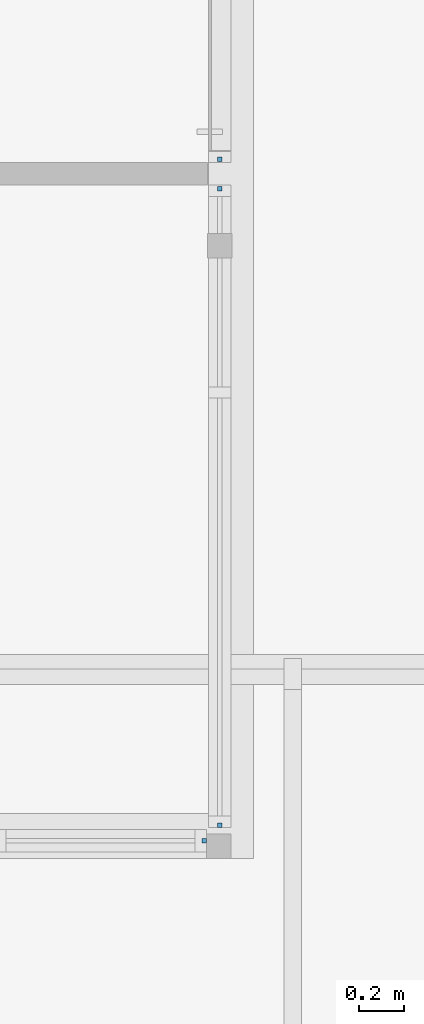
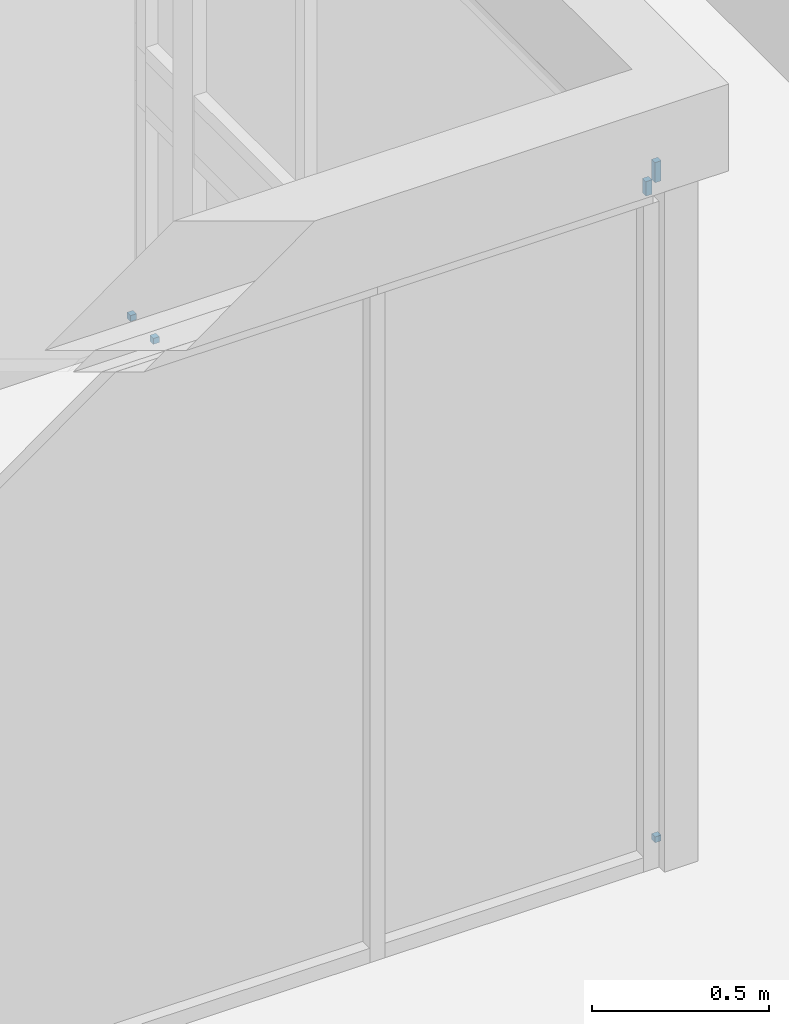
# One storey, part 115 of 153: 5 plates, 3 elements without a shape of their own.
"""IFC4 building model written with IfcOpenShell, lengths in metres."""

from ifc_helpers import new_model, entity, si_unit, converted_unit, derived_unit, direction, frame, origin, place, context, subcontext, project, spatial, indexed_curve, outline, extrude, source, transform, mapped, material, type_object, type_shapes, element, aggregate, save


model = new_model("IFC4")

# Units and contexts
model_context = context("Model", 3, precision=1e-05, world=origin(), true_north=direction((6.123031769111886e-17, 1.0)))
body_context = subcontext(model_context, "Body", "Model", "MODEL_VIEW")
ifc_project = project(units=[si_unit("LENGTHUNIT", "METRE"), si_unit("AREAUNIT", "SQUARE_METRE"), si_unit("VOLUMEUNIT", "CUBIC_METRE"), converted_unit("PLANEANGLEUNIT", "DEGREE", entity("IfcRatioMeasure", 0.017453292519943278), si_unit("PLANEANGLEUNIT", "RADIAN"), dimensions=[0, 0, 0, 0, 0, 0, 0]), si_unit("MASSUNIT", "GRAM", prefix="KILO"), derived_unit("MASSDENSITYUNIT", [(si_unit("MASSUNIT", "GRAM", prefix="KILO"), 1), (si_unit("LENGTHUNIT", "METRE"), -3)]), derived_unit("MOMENTOFINERTIAUNIT", [(si_unit("LENGTHUNIT", "METRE"), 4)]), si_unit("TIMEUNIT", "SECOND"), si_unit("FREQUENCYUNIT", "HERTZ"), si_unit("THERMODYNAMICTEMPERATUREUNIT", "DEGREE_CELSIUS"), derived_unit("THERMALTRANSMITTANCEUNIT", [(si_unit("MASSUNIT", "GRAM", prefix="KILO"), 1), (si_unit("THERMODYNAMICTEMPERATUREUNIT", "KELVIN"), -1), (si_unit("TIMEUNIT", "SECOND"), -3)]), derived_unit("VOLUMETRICFLOWRATEUNIT", [(si_unit("LENGTHUNIT", "METRE"), 3), (si_unit("TIMEUNIT", "SECOND"), -1)]), derived_unit("MASSFLOWRATEUNIT", [(si_unit("MASSUNIT", "GRAM", prefix="KILO"), 1), (si_unit("TIMEUNIT", "SECOND"), -1)]), derived_unit("ROTATIONALFREQUENCYUNIT", [(si_unit("TIMEUNIT", "SECOND"), -1)]), si_unit("ELECTRICCURRENTUNIT", "AMPERE"), si_unit("ELECTRICVOLTAGEUNIT", "VOLT"), si_unit("POWERUNIT", "WATT"), si_unit("FORCEUNIT", "NEWTON", prefix="KILO"), si_unit("ILLUMINANCEUNIT", "LUX"), si_unit("LUMINOUSFLUXUNIT", "LUMEN"), si_unit("LUMINOUSINTENSITYUNIT", "CANDELA"), derived_unit("USERDEFINED", [(si_unit("MASSUNIT", "GRAM", prefix="KILO"), -1), (si_unit("LENGTHUNIT", "METRE"), -2), (si_unit("TIMEUNIT", "SECOND"), 3), (si_unit("LUMINOUSFLUXUNIT", "LUMEN"), 1)]), derived_unit("SOUNDPOWERUNIT", [(si_unit("MASSUNIT", "GRAM", prefix="KILO"), 1), (si_unit("LENGTHUNIT", "METRE"), 2), (si_unit("TIMEUNIT", "SECOND"), -3)]), derived_unit("SOUNDPRESSUREUNIT", [(si_unit("MASSUNIT", "GRAM", prefix="KILO"), 1), (si_unit("LENGTHUNIT", "METRE"), -1), (si_unit("TIMEUNIT", "SECOND"), -2)]), derived_unit("LINEARVELOCITYUNIT", [(si_unit("LENGTHUNIT", "METRE"), 1), (si_unit("TIMEUNIT", "SECOND"), -1)]), si_unit("PRESSUREUNIT", "PASCAL"), derived_unit("USERDEFINED", [(si_unit("LENGTHUNIT", "METRE"), -2), (si_unit("MASSUNIT", "GRAM", prefix="KILO"), 1), (si_unit("TIMEUNIT", "SECOND"), -2)]), derived_unit("LINEARFORCEUNIT", [(si_unit("MASSUNIT", "GRAM", prefix="KILO"), 1), (si_unit("LENGTHUNIT", "METRE"), 1), (si_unit("TIMEUNIT", "SECOND"), -2), (si_unit("LENGTHUNIT", "METRE"), -1)]), derived_unit("PLANARFORCEUNIT", [(si_unit("MASSUNIT", "GRAM", prefix="KILO"), 1), (si_unit("LENGTHUNIT", "METRE"), 1), (si_unit("TIMEUNIT", "SECOND"), -2), (si_unit("LENGTHUNIT", "METRE"), -2)])], contexts=[model_context])

# Site, building, storey
site_placement = place(None, origin())
site = spatial("IfcSite", under=ifc_project, at=site_placement, Name="Superficie", CompositionType="ELEMENT")
building_placement = place(site_placement, origin())
building = spatial("IfcBuilding", under=site, at=building_placement, CompositionType="ELEMENT")
storey_placement = place(building_placement, frame((0.0, 0.0, 3.5999999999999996)))
storey = spatial("IfcBuildingStorey", under=building, at=storey_placement, Name="Nivel 1", CompositionType="ELEMENT", Elevation=3.5999999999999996)

# Curtain wall, plates
curtain_wall_type = type_object("IfcCurtainWallType", Name="Muro cortina:Muro cortina - simple", PredefinedType="NOTDEFINED")
curtain_wall_1_placement = place(storey_placement, frame((0.0, 0.0, -3.5999999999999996)))
curtain_wall_1 = element("IfcCurtainWall", 1, at=curtain_wall_1_placement, inside=storey, type_object=curtain_wall_type, Name="Muro cortina:Muro cortina - simple", ObjectType="Muro cortina:Muro cortina - simple", PredefinedType="NOTDEFINED")
ifc_material = material(Name="Cristal", Category="Vidrio")
plate_type_1 = type_object("IfcPlateType", Name="Panel de sistema:Acristalado", PredefinedType="CURTAIN_PANEL", material=ifc_material)
shared_shape_1 = source(origin(), body_context, "Body", "SweptSolid", [
    extrude(outline(indexed_curve([(-0.01, -0.009999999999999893), (0.01, -0.009999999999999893), (0.01, 0.009999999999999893), (-0.01, 0.009999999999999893), (-0.01, -0.009999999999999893)], self_intersect=False)), frame((0.0, 0.0, 0.0), z_axis=(0.0, 0.0, 1.0), x_axis=(0.0, 1.0, 0.0)), (0.0, 0.0, 1.0), 0.02000000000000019),
])
type_shapes(plate_type_1, [shared_shape_1])
plate_1_placement = place(curtain_wall_1_placement, frame((10.596799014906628, -0.882916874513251, 3.5999999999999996), z_axis=(0.0, 0.0, 1.0), x_axis=(0.0, 1.0, 0.0)))
plate_1 = element("IfcPlate", 2, at=plate_1_placement, type_object=plate_type_1, material=ifc_material, Name="Panel de sistema:Acristalado", ObjectType="Panel de sistema:Acristalado", PredefinedType="CURTAIN_PANEL", context=body_context, shape_type="MappedRepresentation", body=[
    mapped(shared_shape_1, transform((0.0, 0.0, 0.0), scale=1.0)),
])
plate_2_placement = place(curtain_wall_1_placement, frame((10.596799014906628, 1.9570831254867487, 3.5999999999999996), z_axis=(0.0, 0.0, 1.0), x_axis=(0.0, 1.0, 0.0)))
plate_2 = element("IfcPlate", 3, at=plate_2_placement, type_object=plate_type_1, material=ifc_material, Name="Panel de sistema:Acristalado", ObjectType="Panel de sistema:Acristalado", PredefinedType="CURTAIN_PANEL", context=body_context, shape_type="MappedRepresentation", body=[
    mapped(shared_shape_1, transform((0.0, 0.0, 0.0), scale=1.0)),
])

# Curtain wall, plate
curtain_wall_2_placement = place(storey_placement, frame((0.0, 0.0, -3.5999999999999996)))
curtain_wall_2 = element("IfcCurtainWall", 4, at=curtain_wall_2_placement, inside=storey, type_object=curtain_wall_type, Name="Muro cortina:Muro cortina - simple", ObjectType="Muro cortina:Muro cortina - simple", PredefinedType="NOTDEFINED")
plate_3_placement = place(curtain_wall_2_placement, frame((10.596799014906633, 2.087083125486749, 3.5999999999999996), z_axis=(0.0, 0.0, 1.0), x_axis=(0.0, 1.0, 0.0)))
plate_3 = element("IfcPlate", 5, at=plate_3_placement, type_object=plate_type_1, material=ifc_material, Name="Panel de sistema:Acristalado", ObjectType="Panel de sistema:Acristalado", PredefinedType="CURTAIN_PANEL", context=body_context, shape_type="MappedRepresentation", body=[
    mapped(shared_shape_1, transform((0.0, 0.0, 0.0), scale=1.0)),
])
aggregate(curtain_wall_2, [plate_3])

# Plate
plate_type_2 = type_object("IfcPlateType", Name="Panel de sistema:Acristalado", PredefinedType="CURTAIN_PANEL", material=ifc_material)
shared_shape_2 = source(origin(), body_context, "Body", "SweptSolid", [
    extrude(outline(indexed_curve([(-0.01, -0.009999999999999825), (0.01, -0.009999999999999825), (0.01, 0.009999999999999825), (-0.01, 0.009999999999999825), (-0.01, -0.009999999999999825)], self_intersect=False)), frame((0.0, 0.0, 0.0), z_axis=(0.0, 0.0, 1.0), x_axis=(0.0, 1.0, 0.0)), (0.0, 0.0, 1.0), 0.07000000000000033),
])
type_shapes(plate_type_2, [shared_shape_2])
plate_4_placement = place(curtain_wall_1_placement, frame((10.596799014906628, -0.8829168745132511, 5.879999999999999), z_axis=(0.0, 0.0, 1.0), x_axis=(0.0, 1.0, 0.0)))
plate_4 = element("IfcPlate", 6, at=plate_4_placement, type_object=plate_type_2, material=ifc_material, Name="Panel de sistema:Acristalado", ObjectType="Panel de sistema:Acristalado", PredefinedType="CURTAIN_PANEL", context=body_context, shape_type="MappedRepresentation", body=[
    mapped(shared_shape_2, transform((0.0, 0.0, 0.0), scale=1.0)),
])

aggregate(curtain_wall_1, [plate_1, plate_2, plate_4])

# Curtain wall, plate
curtain_wall_3_placement = place(storey_placement, frame((0.0, 0.0, -3.5999999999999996)))
curtain_wall_3 = element("IfcCurtainWall", 7, at=curtain_wall_3_placement, inside=storey, type_object=curtain_wall_type, Name="Muro cortina:Muro cortina - simple", ObjectType="Muro cortina:Muro cortina - simple", PredefinedType="NOTDEFINED")
plate_type_3 = type_object("IfcPlateType", Name="Panel de sistema:Acristalado", PredefinedType="CURTAIN_PANEL", material=ifc_material)
shared_shape_3 = source(origin(), body_context, "Body", "SweptSolid", [
    extrude(outline(indexed_curve([(-0.01, -0.009999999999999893), (0.01, -0.009999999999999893), (0.01, 0.009999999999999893), (-0.01, 0.009999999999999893), (-0.01, -0.009999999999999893)], self_intersect=False)), frame((0.0, 0.0, 0.0), z_axis=(0.0, 0.0, 1.0), x_axis=(0.0, 1.0, 0.0)), (0.0, 0.0, 1.0), 0.04999999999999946),
])
type_shapes(plate_type_3, [shared_shape_3])
plate_5_placement = place(curtain_wall_3_placement, frame((10.52679901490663, -0.9517564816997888, 5.9), z_axis=(0.0, 0.0, 1.0), x_axis=(-1.0, 0.0, 0.0)))
plate_5 = element("IfcPlate", 8, at=plate_5_placement, type_object=plate_type_3, material=ifc_material, Name="Panel de sistema:Acristalado", ObjectType="Panel de sistema:Acristalado", PredefinedType="CURTAIN_PANEL", context=body_context, shape_type="MappedRepresentation", body=[
    mapped(shared_shape_3, transform((0.0, 0.0, 0.0), scale=1.0)),
])
aggregate(curtain_wall_3, [plate_5])

save(model, "model.ifc")
